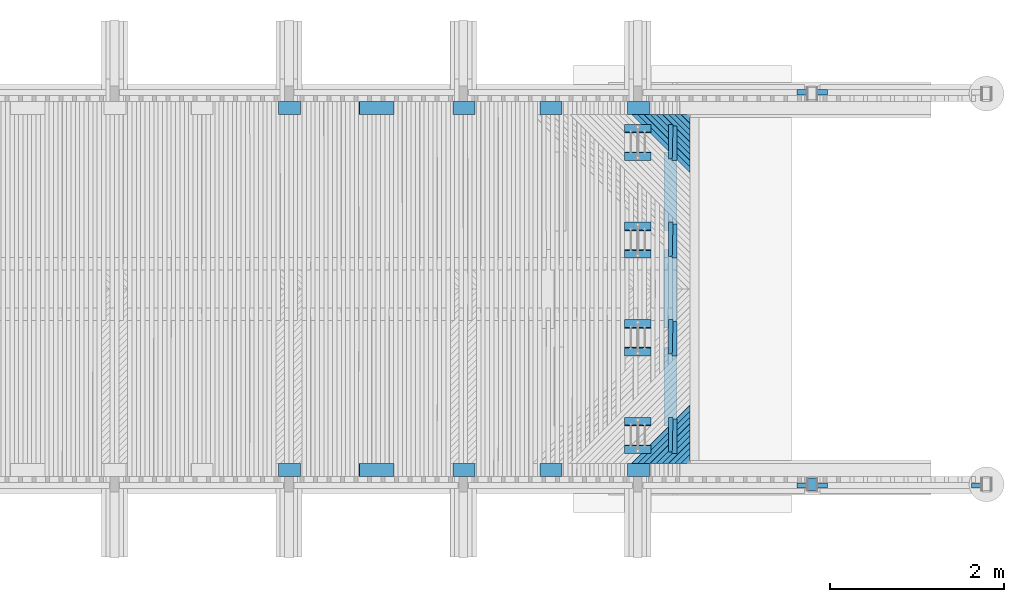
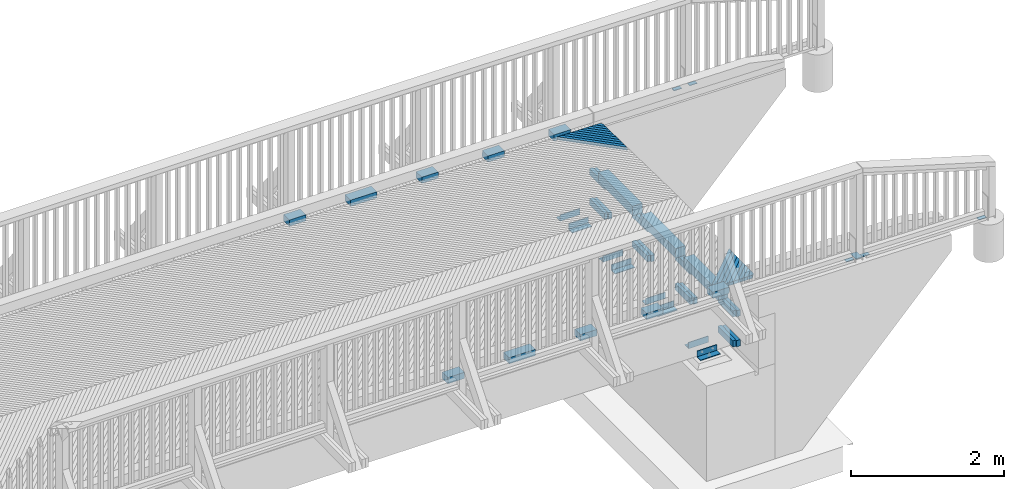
# One storey, part 50 of 53: 61 beams.
"""IFC2X3 building model written with IfcOpenShell, lengths in millimetres."""

from ifc_helpers import new_model, si_unit, frame, origin_with_axes, place, context, subcontext, project, spatial, faceted_brep, material, type_object, element, save


model = new_model("IFC2X3")

# Units and contexts
model_context = context("Model", 3, precision=1e-05, world=origin_with_axes())
body_context = subcontext(model_context, "Body", "Model", "MODEL_VIEW")
ifc_project = project(units=[si_unit("LENGTHUNIT", "METRE", prefix="MILLI"), si_unit("AREAUNIT", "SQUARE_METRE"), si_unit("VOLUMEUNIT", "CUBIC_METRE"), si_unit("MASSUNIT", "GRAM", prefix="KILO"), si_unit("TIMEUNIT", "SECOND"), si_unit("PLANEANGLEUNIT", "RADIAN"), si_unit("SOLIDANGLEUNIT", "STERADIAN"), si_unit("THERMODYNAMICTEMPERATUREUNIT", "DEGREE_CELSIUS"), si_unit("LUMINOUSINTENSITYUNIT", "LUMEN")], contexts=[model_context])

# Site, building, storey
site_placement = place(None, origin_with_axes())
site = spatial("IfcSite", under=ifc_project, at=site_placement, Name="Undefined", CompositionType="ELEMENT")
building_placement = place(site_placement, origin_with_axes())
building = spatial("IfcBuilding", under=site, at=building_placement, Name="Undefined", CompositionType="ELEMENT")
storey_placement = place(building_placement, origin_with_axes())
storey = spatial("IfcBuildingStorey", under=building, at=storey_placement, Name="Undefined", CompositionType="ELEMENT", Elevation=0.0)

# Beams
ifc_material_1 = material(Name="STEEL/AISI316")
beam_type_1 = type_object("IfcBeamType", Name="PL60*10", PredefinedType="NOTDEFINED")
for number, where, z_axis, x_axis in (
    (1, (18059.9965039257, 44620.0000002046, 3101.8699999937), (-0.000116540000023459, -0.999999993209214, 0.0), (0.999999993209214, -0.000116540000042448, 0.0)),
    (2, (17940.0034960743, 44620.0000002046, 3101.86999999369), (0.000116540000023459, -0.999999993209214, 0.0), (-0.999999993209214, -0.000116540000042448, 0.0)),
    (3, (19940.0034960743, 40109.9999997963, 3073.75999999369), (0.000116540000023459, 0.999999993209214, 0.0), (-0.999999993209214, 0.000116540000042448, 0.0)),
    (4, (18059.9965039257, 40109.9999997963, 3101.8699999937), (-0.000116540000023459, 0.999999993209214, 0.0), (0.999999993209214, 0.000116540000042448, 0.0)),
    (5, (17940.0034960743, 40109.9999997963, 3101.86999999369), (0.000116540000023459, 0.999999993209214, 0.0), (-0.999999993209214, 0.000116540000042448, 0.0)),
):
    element("IfcBeam", number, at=place(storey_placement, frame(where, z_axis=z_axis, x_axis=x_axis)), inside=storey, type_object=beam_type_1, material=ifc_material_1, Name="KAIDEPYLVÄS", ObjectType="PL60*10", context=body_context, shape_type="Brep", body=[
        faceted_brep([(0.0, 5.0, -29.9999999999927), (-3.63797880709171e-12, 5.0, 30.0), (115.000000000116, 5.0, 29.9999999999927), (115.00000000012, 5.0, -30.0), (-3.63797880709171e-12, -5.0, 30.0), (115.000000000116, -5.0, 29.9999999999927), (0.0, -5.0, -29.9999999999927), (115.00000000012, -5.0, -30.0)], [[[0, 1, 2, 3]], [[1, 4, 5, 2]], [[4, 6, 7, 5]], [[6, 0, 3, 7]], [[5, 7, 3, 2]], [[6, 4, 1, 0]]]),
    ])
beam_type_2 = type_object("IfcBeamType", Name="PL100*10", PredefinedType="NOTDEFINED")
beam_1_placement = place(storey_placement, frame((17999.9999998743, 40055.02, 3117.67000000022), z_axis=(1.0, 0.0, 0.0), x_axis=(0.0, 1.0, 0.0)))
element("IfcBeam", 6, at=beam_1_placement, inside=storey, type_object=beam_type_2, material=ifc_material_1, Name="KAIDEPYLVÄS", ObjectType="PL100*10", context=body_context, shape_type="Brep", body=[
    faceted_brep([(0.0, 5.0, -50.0), (0.0, 5.0, 50.0), (140.0, 5.0, 50.0), (140.0, 5.0, -50.0), (0.0, -5.0, 50.0), (140.0, -5.0, 50.0), (0.0, -5.0, -50.0), (140.0, -5.0, -50.0)], [[[0, 1, 2, 3]], [[1, 4, 5, 2]], [[4, 6, 7, 5]], [[6, 0, 3, 7]], [[5, 7, 3, 2]], [[6, 4, 1, 0]]]),
])
ifc_material_2 = material(Name="TIMBER/Timber_Undefined")
beam_type_3 = type_object("IfcBeamType", Name="150*100", PredefinedType="NOTDEFINED")
for number, where, z_axis, x_axis in (
    (7, (12805.9377995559, 40289.9999999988, 3199.40960826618), (0.0, -1.0, 0.0), (0.999944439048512, 0.0, -0.0105412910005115)),
    (8, (12805.9377995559, 44439.9999999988, 3199.40960826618), (0.0, -1.0, 0.0), (0.999944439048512, 0.0, -0.0105412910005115)),
):
    element("IfcBeam", number, at=place(storey_placement, frame(where, z_axis=z_axis, x_axis=x_axis)), inside=storey, type_object=beam_type_3, material=ifc_material_2, Name="TÖRMÄYSJOHDE", ObjectType="150*100", context=body_context, shape_type="Brep", body=[
        faceted_brep([(-3.63797880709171e-12, 50.0, -75.0), (-3.63797880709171e-12, 50.0, 75.0), (399.996161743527, 49.9999999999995, 75.0), (399.996161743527, 49.9999999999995, -75.0), (0.0, -49.9999999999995, 75.0), (399.996161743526, -50.0000000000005, 75.0), (0.0, -49.9999999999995, -75.0), (399.996161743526, -50.0000000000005, -75.0)], [[[0, 1, 2, 3]], [[1, 4, 5, 2]], [[4, 6, 7, 5]], [[6, 0, 3, 7]], [[5, 7, 3, 2]], [[6, 4, 1, 0]]]),
    ])
for number, where, z_axis, x_axis in (
    (9, (15881.7966501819, 44439.9999999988, 3166.35655532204), (0.0, -1.0, 0.0), (0.999929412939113, 0.0, -0.0118814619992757)),
    (10, (15881.7966501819, 40289.9999999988, 3166.35655532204), (0.0, -1.0, 0.0), (0.999929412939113, 0.0, -0.0118814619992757)),
    (11, (14881.4642555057, 44439.9999999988, 3178.62153167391), (0.0, -1.0, 0.0), (0.999947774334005, 0.0, -0.0102200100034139)),
    (12, (14881.4642555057, 40289.9999999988, 3178.62153167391), (0.0, -1.0, 0.0), (0.999947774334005, 0.0, -0.0102200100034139)),
    (13, (13881.1128627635, 44439.9999999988, 3189.22438612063), (0.0, -1.0, 0.0), (0.99996337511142, 0.0, -0.00855853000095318)),
    (14, (13881.1128627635, 40289.9999999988, 3189.22438612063), (0.0, -1.0, 0.0), (0.99996337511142, 0.0, -0.00855853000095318)),
    (15, (11880.3641300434, 44439.9999999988, 3205.44361680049), (0.0, -1.0, 0.0), (0.999986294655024, 0.0, -0.00523550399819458)),
    (16, (11880.3641300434, 40289.9999999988, 3205.44361680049), (0.0, -1.0, 0.0), (0.999986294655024, 0.0, -0.00523550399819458)),
):
    element("IfcBeam", number, at=place(storey_placement, frame(where, z_axis=z_axis, x_axis=x_axis)), inside=storey, type_object=beam_type_3, material=ifc_material_2, Name="TÖRMÄYSJOHDE", ObjectType="150*100", context=body_context, shape_type="Brep", body=[
        faceted_brep([(-3.63797880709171e-12, 50.0, -75.0), (-3.63797880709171e-12, 50.0, 75.0), (250.000589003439, 50.0000000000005, 75.0), (250.000589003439, 50.0000000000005, -75.0), (0.0, -49.9999999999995, 75.0), (250.000589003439, -50.0, 75.0), (0.0, -49.9999999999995, -75.0), (250.000589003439, -50.0, -75.0)], [[[0, 1, 2, 3]], [[1, 4, 5, 2]], [[4, 6, 7, 5]], [[6, 0, 3, 7]], [[5, 7, 3, 2]], [[6, 4, 1, 0]]]),
    ])
beam_type_4 = type_object("IfcBeamType", Name="150*150", PredefinedType="NOTDEFINED")
for number, where, z_axis, x_axis, name in (
    (17, (16375.0061224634, 43035.0011300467, 2658.99214114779), (-4.45050000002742e-05, 0.0, 0.999999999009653), (0.0, 1.0, 0.0), "BEAM"),
    (18, (16375.0061224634, 41915.0011300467, 2658.99214114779), (-4.45050000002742e-05, 0.0, 0.999999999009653), (0.0, 1.0, 0.0), "BEAM"),
    (19, (16375.0061224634, 40795.0011300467, 2658.99214114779), (-4.45050000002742e-05, 0.0, 0.999999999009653), (0.0, 1.0, 0.0), "BEAM"),
):
    element("IfcBeam", number, at=place(storey_placement, frame(where, z_axis=z_axis, x_axis=x_axis)), inside=storey, type_object=beam_type_4, material=ifc_material_2, Name=name, ObjectType="150*150", context=body_context, shape_type="Brep", body=[
        faceted_brep([(3.63797880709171e-12, 75.0000000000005, -75.0), (3.63797880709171e-12, 75.0000000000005, 75.0), (900.0, 75.0, 75.0000000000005), (900.0, 74.9999999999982, -74.9999999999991), (0.0, -75.0000000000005, 75.0), (900.0, -75.0000000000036, 75.0000000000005), (0.0, -75.0000000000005, -75.0), (900.0, -75.0, -74.9999999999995)], [[[0, 1, 2, 3]], [[1, 4, 5, 2]], [[4, 6, 7, 5]], [[6, 0, 3, 7]], [[5, 7, 3, 2]], [[6, 4, 1, 0]]]),
    ])
beam_type_5 = type_object("IfcBeamType", Name="50*50", PredefinedType="NOTDEFINED")
beam_2_placement = place(storey_placement, frame((18531.7317784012, 42364.5001003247, 3144.0077743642), z_axis=(0.706781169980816, -0.706981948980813, -0.0252369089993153), x_axis=(-0.707258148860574, -0.706948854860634, -0.00303767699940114)))
element("IfcBeam", 20, at=beam_2_placement, inside=storey, type_object=beam_type_5, material=ifc_material_2, Name="BEAM", ObjectType="50*50", context=body_context, shape_type="Brep", body=[
    faceted_brep([(2802.92643296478, -25.0, 25.0), (2852.92877373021, -25.0000000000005, -25.0000000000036), (2854.34301907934, 24.9999999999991, -25.0000000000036), (2804.34067830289, 25.0, 25.0000000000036), (2705.75872714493, 25.0, -25.0), (2755.72500686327, 25.0, 25.0000000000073), (2756.83447595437, -25.0, 25.0000000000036), (2706.86819623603, -25.0, -25.0)], [[[0, 1, 2, 3]], [[3, 2, 4, 5]], [[0, 3, 5, 6]], [[1, 0, 6, 7]], [[2, 1, 7, 4]], [[6, 5, 4, 7]]]),
])
beam_3_placement = place(storey_placement, frame((18531.7317784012, 42365.4998996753, 3144.0077743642), z_axis=(0.706781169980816, 0.706981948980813, -0.0252369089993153), x_axis=(-0.707258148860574, 0.706948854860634, -0.00303767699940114)))
element("IfcBeam", 21, at=beam_3_placement, inside=storey, type_object=beam_type_5, material=ifc_material_2, Name="BEAM", ObjectType="50*50", context=body_context, shape_type="Brep", body=[
    faceted_brep([(2804.3406783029, -25.0, 24.9999999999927), (2854.34301907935, -25.0, -25.0), (2852.92877373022, 25.0, -25.0000000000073), (2802.92643296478, 25.0, 25.0), (2756.83447595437, 25.0, 25.0), (2755.72500686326, -25.0, 25.0), (2705.75872714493, -25.0, -24.9999999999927), (2706.86819623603, 25.0, -25.0)], [[[0, 1, 2, 3]], [[0, 3, 4, 5]], [[1, 0, 5, 6]], [[2, 1, 6, 7]], [[3, 2, 7, 4]], [[6, 5, 4, 7]]]),
])
beam_4_placement = place(storey_placement, frame((18461.0182922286, 42364.5001003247, 3145.24068549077), z_axis=(0.706784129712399, -0.70698194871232, -0.0251538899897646), x_axis=(-0.70725778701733, -0.706948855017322, -0.00312075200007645)))
element("IfcBeam", 22, at=beam_4_placement, inside=storey, type_object=beam_type_5, material=ifc_material_2, Name="BEAM", ObjectType="50*50", context=body_context, shape_type="Brep", body=[
    faceted_brep([(2802.92643296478, -25.0, 25.0), (2852.92877373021, -25.0000000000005, -25.0000000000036), (2854.34301907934, 24.9999999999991, -25.0000000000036), (2804.34067830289, 25.0, 25.0000000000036), (2605.78153801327, 25.0, -24.9999999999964), (2655.74805253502, 24.9999999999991, 24.9999999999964), (2656.84922092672, -25.0000000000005, 24.9999999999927), (2606.88270640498, -25.0000000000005, -25.0)], [[[0, 1, 2, 3]], [[3, 2, 4, 5]], [[0, 3, 5, 6]], [[1, 0, 6, 7]], [[2, 1, 7, 4]], [[6, 5, 4, 7]]]),
])
beam_5_placement = place(storey_placement, frame((18461.0182922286, 42365.4998996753, 3145.24068549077), z_axis=(0.706784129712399, 0.70698194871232, -0.0251538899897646), x_axis=(-0.70725778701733, 0.706948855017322, -0.00312075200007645)))
element("IfcBeam", 23, at=beam_5_placement, inside=storey, type_object=beam_type_5, material=ifc_material_2, Name="BEAM", ObjectType="50*50", context=body_context, shape_type="Brep", body=[
    faceted_brep([(2804.3406783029, -25.0, 24.9999999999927), (2854.34301907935, -25.0, -25.0), (2852.92877373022, 25.0, -25.0000000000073), (2802.92643296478, 25.0, 25.0), (2656.84922092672, 25.0000000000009, 25.0), (2655.74805253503, -24.9999999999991, 25.0000000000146), (2605.78153801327, -25.0, -24.9999999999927), (2606.88270640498, 25.0000000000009, -25.0)], [[[0, 1, 2, 3]], [[0, 3, 4, 5]], [[1, 0, 5, 6]], [[2, 1, 6, 7]], [[3, 2, 7, 4]], [[6, 5, 4, 7]]]),
])
beam_6_placement = place(storey_placement, frame((18390.3046617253, 42364.5001003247, 3146.4652905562), z_axis=(0.70678707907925, -0.706981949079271, -0.0250708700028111), x_axis=(-0.707257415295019, -0.706948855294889, -0.00320382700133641)))
element("IfcBeam", 24, at=beam_6_placement, inside=storey, type_object=beam_type_5, material=ifc_material_2, Name="BEAM", ObjectType="50*50", context=body_context, shape_type="Brep", body=[
    faceted_brep([(2802.92643296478, -25.0, 25.0), (2852.92877373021, -25.0000000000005, -25.0000000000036), (2854.34301907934, 24.9999999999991, -25.0000000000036), (2804.34067830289, 25.0, 25.0000000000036), (2505.80407790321, 25.0000000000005, -24.9999999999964), (2555.77082719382, 25.0000000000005, 25.0000000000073), (2556.86369484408, -25.0000000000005, 25.0000000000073), (2506.89694555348, -25.0, -24.9999999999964)], [[[0, 1, 2, 3]], [[3, 2, 4, 5]], [[0, 3, 5, 6]], [[1, 0, 6, 7]], [[2, 1, 7, 4]], [[6, 5, 4, 7]]]),
])
beam_7_placement = place(storey_placement, frame((18390.3046617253, 42365.4998996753, 3146.4652905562), z_axis=(0.70678707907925, 0.706981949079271, -0.0250708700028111), x_axis=(-0.707257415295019, 0.706948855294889, -0.00320382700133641)))
element("IfcBeam", 25, at=beam_7_placement, inside=storey, type_object=beam_type_5, material=ifc_material_2, Name="BEAM", ObjectType="50*50", context=body_context, shape_type="Brep", body=[
    faceted_brep([(2804.3406783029, -25.0, 24.9999999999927), (2854.34301907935, -25.0, -25.0), (2852.92877373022, 25.0, -25.0000000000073), (2802.92643296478, 25.0, 25.0), (2556.86369484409, 25.0, 25.0), (2555.77082719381, -25.0000000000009, 25.0), (2505.80407790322, -25.0000000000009, -25.0), (2506.89694555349, 24.9999999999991, -25.0)], [[[0, 1, 2, 3]], [[0, 3, 4, 5]], [[1, 0, 5, 6]], [[2, 1, 6, 7]], [[3, 2, 7, 4]], [[6, 5, 4, 7]]]),
])
beam_8_placement = place(storey_placement, frame((18319.5908878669, 42364.5001003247, 3147.68158954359), z_axis=(0.706790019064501, -0.706981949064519, -0.0249878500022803), x_axis=(-0.707257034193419, -0.706948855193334, -0.00328690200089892)))
element("IfcBeam", 26, at=beam_8_placement, inside=storey, type_object=beam_type_5, material=ifc_material_2, Name="BEAM", ObjectType="50*50", context=body_context, shape_type="Brep", body=[
    faceted_brep([(2802.92643296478, -25.0, 25.0), (2852.92877373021, -25.0000000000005, -25.0000000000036), (2854.34301907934, 24.9999999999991, -25.0000000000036), (2804.34067830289, 25.0, 25.0000000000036), (2405.82634224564, 25.0, -25.0000000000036), (2455.79332630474, 25.0000000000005, 25.0), (2456.87789321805, -24.9999999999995, 24.9999999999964), (2406.91090915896, -24.9999999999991, -25.0000000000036)], [[[0, 1, 2, 3]], [[3, 2, 4, 5]], [[0, 3, 5, 6]], [[1, 0, 6, 7]], [[2, 1, 7, 4]], [[6, 5, 4, 7]]]),
])
beam_9_placement = place(storey_placement, frame((18319.5908878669, 42365.4998996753, 3147.68158954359), z_axis=(0.706790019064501, 0.706981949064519, -0.0249878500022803), x_axis=(-0.707257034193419, 0.706948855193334, -0.00328690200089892)))
element("IfcBeam", 27, at=beam_9_placement, inside=storey, type_object=beam_type_5, material=ifc_material_2, Name="BEAM", ObjectType="50*50", context=body_context, shape_type="Brep", body=[
    faceted_brep([(2804.3406783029, -25.0, 24.9999999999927), (2854.34301907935, -25.0, -25.0), (2852.92877373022, 25.0, -25.0000000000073), (2802.92643296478, 25.0, 25.0), (2456.87789321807, 25.0, 25.0), (2455.79332630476, -25.0, 25.0), (2405.82634224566, -25.0, -25.0000000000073), (2406.91090915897, 24.9999999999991, -25.0)], [[[0, 1, 2, 3]], [[0, 3, 4, 5]], [[1, 0, 5, 6]], [[2, 1, 6, 7]], [[3, 2, 7, 4]], [[6, 5, 4, 7]]]),
])
beam_10_placement = place(storey_placement, frame((18248.8769716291, 42364.5001003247, 3148.88958243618), z_axis=(0.706792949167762, -0.706981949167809, -0.0249048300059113), x_axis=(-0.707256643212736, -0.706948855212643, -0.00336997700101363)))
element("IfcBeam", 28, at=beam_10_placement, inside=storey, type_object=beam_type_5, material=ifc_material_2, Name="BEAM", ObjectType="50*50", context=body_context, shape_type="Brep", body=[
    faceted_brep([(2802.92643296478, -25.0, 25.0), (2852.92877373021, -25.0000000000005, -25.0000000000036), (2854.34301907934, 24.9999999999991, -25.0000000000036), (2804.34067830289, 25.0, 25.0000000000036), (2305.84833008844, 25.0000000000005, -24.9999999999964), (2355.81554891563, 25.0, 25.0000000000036), (2356.89181509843, -25.0, 25.0000000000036), (2306.92459627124, -24.9999999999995, -24.9999999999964)], [[[0, 1, 2, 3]], [[3, 2, 4, 5]], [[0, 3, 5, 6]], [[1, 0, 6, 7]], [[2, 1, 7, 4]], [[6, 5, 4, 7]]]),
])
beam_11_placement = place(storey_placement, frame((18248.8769716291, 42365.4998996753, 3148.88958243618), z_axis=(0.706792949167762, 0.706981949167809, -0.0249048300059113), x_axis=(-0.707256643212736, 0.706948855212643, -0.00336997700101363)))
element("IfcBeam", 29, at=beam_11_placement, inside=storey, type_object=beam_type_5, material=ifc_material_2, Name="BEAM", ObjectType="50*50", context=body_context, shape_type="Brep", body=[
    faceted_brep([(2804.3406783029, -25.0, 24.9999999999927), (2854.34301907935, -25.0, -25.0), (2852.92877373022, 25.0, -25.0000000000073), (2802.92643296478, 25.0, 25.0), (2356.89181509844, 25.0000000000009, 25.0), (2355.81554891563, -24.9999999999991, 25.0), (2305.84833008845, -24.9999999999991, -25.0), (2306.92459627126, 25.0000000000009, -25.0)], [[[0, 1, 2, 3]], [[0, 3, 4, 5]], [[1, 0, 5, 6]], [[2, 1, 6, 7]], [[3, 2, 7, 4]], [[6, 5, 4, 7]]]),
])
beam_12_placement = place(storey_placement, frame((18178.1629139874, 42364.5001003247, 3150.08926921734), z_axis=(0.706795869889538, -0.706981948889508, -0.0248218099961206), x_axis=(-0.707256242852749, -0.706948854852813, -0.00345305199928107)))
element("IfcBeam", 30, at=beam_12_placement, inside=storey, type_object=beam_type_5, material=ifc_material_2, Name="BEAM", ObjectType="50*50", context=body_context, shape_type="Brep", body=[
    faceted_brep([(2802.92643296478, -25.0, 25.0), (2852.92877373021, -25.0000000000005, -25.0000000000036), (2854.34301907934, 24.9999999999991, -25.0000000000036), (2804.34067830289, 25.0, 25.0000000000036), (2205.87003704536, 25.0, -24.9999999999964), (2255.83749064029, 25.0, 24.9999999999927), (2256.90545609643, -25.0000000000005, 24.9999999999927), (2206.93800250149, -25.0, -25.0)], [[[0, 1, 2, 3]], [[3, 2, 4, 5]], [[0, 3, 5, 6]], [[1, 0, 6, 7]], [[2, 1, 7, 4]], [[6, 5, 4, 7]]]),
])
beam_13_placement = place(storey_placement, frame((18178.1629139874, 42365.4998996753, 3150.08926921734), z_axis=(0.706795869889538, 0.706981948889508, -0.0248218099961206), x_axis=(-0.707256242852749, 0.706948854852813, -0.00345305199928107)))
element("IfcBeam", 31, at=beam_13_placement, inside=storey, type_object=beam_type_5, material=ifc_material_2, Name="BEAM", ObjectType="50*50", context=body_context, shape_type="Brep", body=[
    faceted_brep([(2804.3406783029, -25.0, 24.9999999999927), (2854.34301907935, -25.0, -25.0), (2852.92877373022, 25.0, -25.0000000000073), (2802.92643296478, 25.0, 25.0), (2256.90545609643, 25.0, 25.0), (2255.83749064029, -25.0, 24.9999999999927), (2205.87003704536, -25.0000000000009, -25.0), (2206.9380025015, 24.9999999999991, -24.9999999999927)], [[[0, 1, 2, 3]], [[0, 3, 4, 5]], [[1, 0, 5, 6]], [[2, 1, 6, 7]], [[3, 2, 7, 4]], [[6, 5, 4, 7]]]),
])
beam_14_placement = place(storey_placement, frame((18107.4487159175, 42364.5001003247, 3151.28064987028), z_axis=(0.706798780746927, -0.706981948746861, -0.0247387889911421), x_axis=(-0.707255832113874, -0.706948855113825, -0.00353612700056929)))
element("IfcBeam", 32, at=beam_14_placement, inside=storey, type_object=beam_type_5, material=ifc_material_2, Name="BEAM", ObjectType="50*50", context=body_context, shape_type="Brep", body=[
    faceted_brep([(2802.92643296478, -25.0, 25.0), (2852.92877373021, -25.0000000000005, -25.0000000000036), (2854.34301907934, 24.9999999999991, -25.0000000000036), (2804.34067830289, 25.0, 25.0000000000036), (2105.89146353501, 24.9999999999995, -25.0), (2155.85915193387, 24.9999999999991, 25.0), (2156.91881662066, -25.0, 24.9999999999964), (2106.95112822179, -25.0, -25.0)], [[[0, 1, 2, 3]], [[3, 2, 4, 5]], [[0, 3, 5, 6]], [[1, 0, 6, 7]], [[2, 1, 7, 4]], [[6, 5, 4, 7]]]),
])
beam_15_placement = place(storey_placement, frame((18107.4487159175, 42365.4998996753, 3151.28064987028), z_axis=(0.706798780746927, 0.706981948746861, -0.0247387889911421), x_axis=(-0.707255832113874, 0.706948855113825, -0.00353612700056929)))
element("IfcBeam", 33, at=beam_15_placement, inside=storey, type_object=beam_type_5, material=ifc_material_2, Name="BEAM", ObjectType="50*50", context=body_context, shape_type="Brep", body=[
    faceted_brep([(2804.3406783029, -25.0, 24.9999999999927), (2854.34301907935, -25.0, -25.0), (2852.92877373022, 25.0, -25.0000000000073), (2802.92643296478, 25.0, 25.0), (2156.91881662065, 25.0, 24.9999999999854), (2155.85915193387, -24.9999999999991, 24.9999999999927), (2105.891463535, -24.9999999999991, -25.0000000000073), (2106.95112822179, 25.0, -25.0000000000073)], [[[0, 1, 2, 3]], [[0, 3, 4, 5]], [[1, 0, 5, 6]], [[2, 1, 6, 7]], [[3, 2, 7, 4]], [[6, 5, 4, 7]]]),
])
beam_16_placement = place(storey_placement, frame((18036.7343783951, 42364.5001003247, 3152.46372437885), z_axis=(0.706801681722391, -0.706981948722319, -0.024655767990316), x_axis=(-0.707255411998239, -0.70694885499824, -0.00361920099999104)))
element("IfcBeam", 34, at=beam_16_placement, inside=storey, type_object=beam_type_5, material=ifc_material_2, Name="BEAM", ObjectType="50*50", context=body_context, shape_type="Brep", body=[
    faceted_brep([(2802.92643296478, -25.0, 25.0), (2852.92877373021, -25.0000000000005, -25.0000000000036), (2854.34301907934, 24.9999999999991, -25.0000000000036), (2804.34067830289, 25.0, 25.0000000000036), (2005.91260364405, 24.9999999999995, -25.0), (2055.88052681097, 24.9999999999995, 25.0000000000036), (2056.9318907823, -25.0000000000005, 25.0000000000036), (2006.96396761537, -25.0000000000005, -25.0)], [[[0, 1, 2, 3]], [[3, 2, 4, 5]], [[0, 3, 5, 6]], [[1, 0, 6, 7]], [[2, 1, 7, 4]], [[6, 5, 4, 7]]]),
])
beam_17_placement = place(storey_placement, frame((18036.7343783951, 42365.4998996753, 3152.46372437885), z_axis=(0.706801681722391, 0.706981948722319, -0.024655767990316), x_axis=(-0.707255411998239, 0.70694885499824, -0.00361920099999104)))
element("IfcBeam", 35, at=beam_17_placement, inside=storey, type_object=beam_type_5, material=ifc_material_2, Name="BEAM", ObjectType="50*50", context=body_context, shape_type="Brep", body=[
    faceted_brep([(2804.3406783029, -25.0, 24.9999999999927), (2854.34301907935, -25.0, -25.0), (2852.92877373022, 25.0, -25.0000000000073), (2802.92643296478, 25.0, 25.0), (2056.93189078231, 24.9999999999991, 25.0), (2055.88052681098, -25.0, 25.0), (2005.91260364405, -25.0000000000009, -25.0), (2006.96396761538, 24.9999999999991, -25.0)], [[[0, 1, 2, 3]], [[0, 3, 4, 5]], [[1, 0, 5, 6]], [[2, 1, 6, 7]], [[3, 2, 7, 4]], [[6, 5, 4, 7]]]),
])
beam_18_placement = place(storey_placement, frame((17966.0199023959, 42364.5001003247, 3153.6384927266), z_axis=(0.70680457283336, -0.706981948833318, -0.0245727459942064), x_axis=(-0.707254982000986, -0.706948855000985, -0.00370227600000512)))
element("IfcBeam", 36, at=beam_18_placement, inside=storey, type_object=beam_type_5, material=ifc_material_2, Name="BEAM", ObjectType="50*50", context=body_context, shape_type="Brep", body=[
    faceted_brep([(2802.92643296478, -25.0, 25.0), (2852.92877373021, -25.0000000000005, -25.0000000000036), (2854.34301907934, 24.9999999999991, -25.0000000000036), (2804.34067830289, 25.0, 25.0000000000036), (1905.9334562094, 24.9999999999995, -25.0000000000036), (1955.90161414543, 24.9999999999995, 25.0000000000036), (1956.94467730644, -25.0000000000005, 25.0000000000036), (1906.97651937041, -25.0000000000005, -25.0000000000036)], [[[0, 1, 2, 3]], [[3, 2, 4, 5]], [[0, 3, 5, 6]], [[1, 0, 6, 7]], [[2, 1, 7, 4]], [[6, 5, 4, 7]]]),
])
beam_19_placement = place(storey_placement, frame((17966.0199023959, 42365.4998996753, 3153.6384927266), z_axis=(0.70680457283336, 0.706981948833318, -0.0245727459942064), x_axis=(-0.707254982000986, 0.706948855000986, -0.00370227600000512)))
element("IfcBeam", 37, at=beam_19_placement, inside=storey, type_object=beam_type_5, material=ifc_material_2, Name="BEAM", ObjectType="50*50", context=body_context, shape_type="Brep", body=[
    faceted_brep([(2804.3406783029, -25.0, 24.9999999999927), (2854.34301907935, -25.0, -25.0), (2852.92877373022, 25.0, -25.0000000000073), (2802.92643296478, 25.0, 25.0), (1956.94467730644, 25.0, 25.0000000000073), (1955.90161414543, -25.0, 25.0000000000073), (1905.9334562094, -25.0, -25.0), (1906.97651937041, 25.0, -25.0)], [[[0, 1, 2, 3]], [[0, 3, 4, 5]], [[1, 0, 5, 6]], [[2, 1, 6, 7]], [[3, 2, 7, 4]], [[6, 5, 4, 7]]]),
])
ifc_material_3 = material(Name="STEEL/S235JR")
beam_type_6 = type_object("IfcBeamType", Name="L100*10", PredefinedType="NOTDEFINED")
for number, where, z_axis, x_axis, name in (
    (38, (16150.0, 42767.5000000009, 2047.33), (0.0, -1.0, 0.0), (-1.0, 0.0, 0.0), "BEAM"),
    (39, (16150.0, 43082.5000000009, 2047.33), (0.0, 0.0, 1.0), (-1.0, 0.0, 0.0), "BEAM"),
    (40, (16150.0, 43887.5000000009, 2025.33), (0.0, -1.0, 0.0), (-1.0, 0.0, 0.0), "BEAM"),
    (41, (16150.0, 44202.5000000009, 2025.33), (0.0, 0.0, 1.0), (-1.0, 0.0, 0.0), "BEAM"),
    (42, (15850.0, 41962.5, 2047.33), (0.0, 1.0, 0.0), (1.0, 0.0, 0.0), "BEAM"),
    (43, (15850.0, 41647.5, 2047.33), (0.0, 0.0, 1.0), (1.0, 0.0, 0.0), "BEAM"),
    (44, (15850.0, 40842.5, 2025.33), (0.0, 1.0, 0.0), (1.0, 0.0, 0.0), "BEAM"),
    (45, (15850.0, 40527.5, 2025.33), (0.0, 0.0, 1.0), (1.0, 0.0, 0.0), "BEAM"),
):
    element("IfcBeam", number, at=place(storey_placement, frame(where, z_axis=z_axis, x_axis=x_axis)), inside=storey, type_object=beam_type_6, material=ifc_material_3, Name=name, ObjectType="L100*10", context=body_context, shape_type="Brep", body=[
        faceted_brep([(0.0, 50.0, -50.0), (0.0, 50.0, 50.0), (300.0, 50.0, 50.0), (300.0, 50.0, -50.0), (0.0, 40.0, 50.0), (300.0, 40.0, 50.0), (0.0, 40.0, -40.0), (300.0, 40.0, -40.0), (0.0, -50.0, -40.0), (300.0, -50.0, -40.0), (0.0, -50.0, -50.0), (300.0, -50.0, -50.0)], [[[0, 1, 2, 3]], [[1, 4, 5, 2]], [[4, 6, 7, 5]], [[6, 8, 9, 7]], [[8, 10, 11, 9]], [[10, 0, 3, 11]], [[5, 7, 9, 11, 3, 2]], [[10, 8, 6, 4, 1, 0]]]),
    ])
beam_type_7 = type_object("IfcBeamType", Name="100*60", PredefinedType="NOTDEFINED")
beam_20_placement = place(storey_placement, frame((16380.01, 43857.5, 2533.62000000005), z_axis=(0.0, 0.0, 1.0), x_axis=(0.0, 1.0, 0.0)))
element("IfcBeam", 46, at=beam_20_placement, inside=storey, type_object=beam_type_7, material=ifc_material_2, Name="BEAM", ObjectType="100*60", context=body_context, shape_type="Brep", body=[
    faceted_brep([(0.0, 30.0, -50.0), (0.0, 30.0, 50.0), (395.0, 30.0, 50.0), (395.0, 30.0, -50.0), (395.0, -25.2500000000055, 50.0), (395.0, -25.2500000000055, -50.0), (0.0, -15.2499998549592, -50.0), (0.0, -15.2499998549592, 50.0)], [[[0, 1, 2, 3]], [[3, 2, 4, 5]], [[0, 3, 5, 6]], [[1, 0, 6, 7]], [[2, 1, 7, 4]], [[6, 5, 4, 7]]]),
])
beam_21_placement = place(storey_placement, frame((16420.01, 43837.5, 2533.62000000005), z_axis=(0.0, 0.0, 1.0), x_axis=(0.0, 1.0, 0.0)))
element("IfcBeam", 47, at=beam_21_placement, inside=storey, type_object=beam_type_7, material=ifc_material_2, Name="BEAM", ObjectType="100*60", context=body_context, shape_type="Brep", body=[
    faceted_brep([(0.0, -30.0, 50.0), (0.0, -30.0, -50.0), (395.0, -30.0, -50.0), (395.0, -30.0, 50.0), (395.0, 15.2563291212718, 50.0), (0.0, 25.2563292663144, 50.0), (0.0, 25.2563292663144, -50.0), (395.0, 15.2563291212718, -50.0)], [[[0, 1, 2, 3]], [[0, 3, 4, 5]], [[1, 0, 5, 6]], [[2, 1, 6, 7]], [[3, 2, 7, 4]], [[6, 5, 4, 7]]]),
])
beam_22_placement = place(storey_placement, frame((16380.0, 43857.5, 2055.33), z_axis=(0.0, 0.0, 1.0), x_axis=(0.0, 1.0, 0.0)))
element("IfcBeam", 48, at=beam_22_placement, inside=storey, type_object=beam_type_7, material=ifc_material_2, Name="BEAM", ObjectType="100*60", context=body_context, shape_type="Brep", body=[
    faceted_brep([(0.0, 30.0, -50.0), (0.0, 30.0, 50.0), (395.0, 30.0, 50.0), (395.0, 30.0, -50.0), (395.0, -25.2500000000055, 50.0), (395.0, -25.2500000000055, -50.0), (0.0, -15.2499998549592, -50.0), (0.0, -15.2499998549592, 50.0)], [[[0, 1, 2, 3]], [[3, 2, 4, 5]], [[0, 3, 5, 6]], [[1, 0, 6, 7]], [[2, 1, 7, 4]], [[6, 5, 4, 7]]]),
])
beam_23_placement = place(storey_placement, frame((16420.0, 43837.5, 2055.33), z_axis=(0.0, 0.0, 1.0), x_axis=(0.0, 1.0, 0.0)))
element("IfcBeam", 49, at=beam_23_placement, inside=storey, type_object=beam_type_7, material=ifc_material_2, Name="BEAM", ObjectType="100*60", context=body_context, shape_type="Brep", body=[
    faceted_brep([(0.0, -30.0, 50.0), (0.0, -30.0, -50.0), (395.0, -30.0, -50.0), (395.0, -30.0, 50.0), (395.0, 15.2563291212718, 50.0), (0.0, 25.2563292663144, 50.0), (0.0, 25.2563292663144, -50.0), (395.0, 15.2563291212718, -50.0)], [[[0, 1, 2, 3]], [[0, 3, 4, 5]], [[1, 0, 5, 6]], [[2, 1, 6, 7]], [[3, 2, 7, 4]], [[6, 5, 4, 7]]]),
])
beam_24_placement = place(storey_placement, frame((16380.01, 42737.5, 2533.62000000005), z_axis=(0.0, 0.0, 1.0), x_axis=(0.0, 1.0, 0.0)))
element("IfcBeam", 50, at=beam_24_placement, inside=storey, type_object=beam_type_7, material=ifc_material_2, Name="BEAM", ObjectType="100*60", context=body_context, shape_type="Brep", body=[
    faceted_brep([(0.0, 30.0, -50.0), (0.0, 30.0, 50.0), (395.0, 30.0, 50.0), (395.0, 30.0, -50.0), (395.0, -25.2500000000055, 50.0), (395.0, -25.2500000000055, -50.0), (0.0, -15.2499998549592, -50.0), (0.0, -15.2499998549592, 50.0)], [[[0, 1, 2, 3]], [[3, 2, 4, 5]], [[0, 3, 5, 6]], [[1, 0, 6, 7]], [[2, 1, 7, 4]], [[6, 5, 4, 7]]]),
])
beam_25_placement = place(storey_placement, frame((16420.01, 42717.5, 2533.62000000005), z_axis=(0.0, 0.0, 1.0), x_axis=(0.0, 1.0, 0.0)))
element("IfcBeam", 51, at=beam_25_placement, inside=storey, type_object=beam_type_7, material=ifc_material_2, Name="BEAM", ObjectType="100*60", context=body_context, shape_type="Brep", body=[
    faceted_brep([(0.0, -30.0, 50.0), (0.0, -30.0, -50.0), (395.0, -30.0, -50.0), (395.0, -30.0, 50.0), (395.0, 15.2563291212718, 50.0), (0.0, 25.2563292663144, 50.0), (0.0, 25.2563292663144, -50.0), (395.0, 15.2563291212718, -50.0)], [[[0, 1, 2, 3]], [[0, 3, 4, 5]], [[1, 0, 5, 6]], [[2, 1, 6, 7]], [[3, 2, 7, 4]], [[6, 5, 4, 7]]]),
])
beam_26_placement = place(storey_placement, frame((16380.0, 42737.5, 2055.33), z_axis=(0.0, 0.0, 1.0), x_axis=(0.0, 1.0, 0.0)))
element("IfcBeam", 52, at=beam_26_placement, inside=storey, type_object=beam_type_7, material=ifc_material_2, Name="BEAM", ObjectType="100*60", context=body_context, shape_type="Brep", body=[
    faceted_brep([(0.0, 30.0, -50.0), (0.0, 30.0, 50.0), (395.0, 30.0, 50.0), (395.0, 30.0, -50.0), (395.0, -25.2500000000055, 50.0), (395.0, -25.2500000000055, -50.0), (0.0, -15.2499998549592, -50.0), (0.0, -15.2499998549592, 50.0)], [[[0, 1, 2, 3]], [[3, 2, 4, 5]], [[0, 3, 5, 6]], [[1, 0, 6, 7]], [[2, 1, 7, 4]], [[6, 5, 4, 7]]]),
])
beam_27_placement = place(storey_placement, frame((16420.0, 42717.5, 2055.33), z_axis=(0.0, 0.0, 1.0), x_axis=(0.0, 1.0, 0.0)))
element("IfcBeam", 53, at=beam_27_placement, inside=storey, type_object=beam_type_7, material=ifc_material_2, Name="BEAM", ObjectType="100*60", context=body_context, shape_type="Brep", body=[
    faceted_brep([(0.0, -30.0, 50.0), (0.0, -30.0, -50.0), (395.0, -30.0, -50.0), (395.0, -30.0, 50.0), (395.0, 15.2563291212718, 50.0), (0.0, 25.2563292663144, 50.0), (0.0, 25.2563292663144, -50.0), (395.0, 15.2563291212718, -50.0)], [[[0, 1, 2, 3]], [[0, 3, 4, 5]], [[1, 0, 5, 6]], [[2, 1, 6, 7]], [[3, 2, 7, 4]], [[6, 5, 4, 7]]]),
])
beam_28_placement = place(storey_placement, frame((16380.01, 41617.5, 2533.62000000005), z_axis=(0.0, 0.0, 1.0), x_axis=(0.0, 1.0, 0.0)))
element("IfcBeam", 54, at=beam_28_placement, inside=storey, type_object=beam_type_7, material=ifc_material_2, Name="BEAM", ObjectType="100*60", context=body_context, shape_type="Brep", body=[
    faceted_brep([(0.0, 30.0, -50.0), (0.0, 30.0, 50.0), (395.0, 30.0, 50.0), (395.0, 30.0, -50.0), (395.0, -25.2500000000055, 50.0), (395.0, -25.2500000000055, -50.0), (0.0, -15.2499998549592, -50.0), (0.0, -15.2499998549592, 50.0)], [[[0, 1, 2, 3]], [[3, 2, 4, 5]], [[0, 3, 5, 6]], [[1, 0, 6, 7]], [[2, 1, 7, 4]], [[6, 5, 4, 7]]]),
])
beam_29_placement = place(storey_placement, frame((16420.01, 41597.5, 2533.62000000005), z_axis=(0.0, 0.0, 1.0), x_axis=(0.0, 1.0, 0.0)))
element("IfcBeam", 55, at=beam_29_placement, inside=storey, type_object=beam_type_7, material=ifc_material_2, Name="BEAM", ObjectType="100*60", context=body_context, shape_type="Brep", body=[
    faceted_brep([(0.0, -30.0, 50.0), (0.0, -30.0, -50.0), (395.0, -30.0, -50.0), (395.0, -30.0, 50.0), (395.0, 15.2563291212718, 50.0), (0.0, 25.2563292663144, 50.0), (0.0, 25.2563292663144, -50.0), (395.0, 15.2563291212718, -50.0)], [[[0, 1, 2, 3]], [[0, 3, 4, 5]], [[1, 0, 5, 6]], [[2, 1, 6, 7]], [[3, 2, 7, 4]], [[6, 5, 4, 7]]]),
])
beam_30_placement = place(storey_placement, frame((16380.0, 41617.5, 2055.33), z_axis=(0.0, 0.0, 1.0), x_axis=(0.0, 1.0, 0.0)))
element("IfcBeam", 56, at=beam_30_placement, inside=storey, type_object=beam_type_7, material=ifc_material_2, Name="BEAM", ObjectType="100*60", context=body_context, shape_type="Brep", body=[
    faceted_brep([(0.0, 30.0, -50.0), (0.0, 30.0, 50.0), (395.0, 30.0, 50.0), (395.0, 30.0, -50.0), (395.0, -25.2500000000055, 50.0), (395.0, -25.2500000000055, -50.0), (0.0, -15.2499998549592, -50.0), (0.0, -15.2499998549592, 50.0)], [[[0, 1, 2, 3]], [[3, 2, 4, 5]], [[0, 3, 5, 6]], [[1, 0, 6, 7]], [[2, 1, 7, 4]], [[6, 5, 4, 7]]]),
])
beam_31_placement = place(storey_placement, frame((16420.0, 41597.5, 2055.33), z_axis=(0.0, 0.0, 1.0), x_axis=(0.0, 1.0, 0.0)))
element("IfcBeam", 57, at=beam_31_placement, inside=storey, type_object=beam_type_7, material=ifc_material_2, Name="BEAM", ObjectType="100*60", context=body_context, shape_type="Brep", body=[
    faceted_brep([(0.0, -30.0, 50.0), (0.0, -30.0, -50.0), (395.0, -30.0, -50.0), (395.0, -30.0, 50.0), (395.0, 15.2563291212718, 50.0), (0.0, 25.2563292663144, 50.0), (0.0, 25.2563292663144, -50.0), (395.0, 15.2563291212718, -50.0)], [[[0, 1, 2, 3]], [[0, 3, 4, 5]], [[1, 0, 5, 6]], [[2, 1, 6, 7]], [[3, 2, 7, 4]], [[6, 5, 4, 7]]]),
])
beam_32_placement = place(storey_placement, frame((16380.01, 40497.5, 2533.62000000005), z_axis=(0.0, 0.0, 1.0), x_axis=(0.0, 1.0, 0.0)))
element("IfcBeam", 58, at=beam_32_placement, inside=storey, type_object=beam_type_7, material=ifc_material_2, Name="BEAM", ObjectType="100*60", context=body_context, shape_type="Brep", body=[
    faceted_brep([(0.0, 30.0, -50.0), (0.0, 30.0, 50.0), (395.0, 30.0, 50.0), (395.0, 30.0, -50.0), (395.0, -25.2500000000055, 50.0), (395.0, -25.2500000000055, -50.0), (0.0, -15.2499998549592, -50.0), (0.0, -15.2499998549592, 50.0)], [[[0, 1, 2, 3]], [[3, 2, 4, 5]], [[0, 3, 5, 6]], [[1, 0, 6, 7]], [[2, 1, 7, 4]], [[6, 5, 4, 7]]]),
])
beam_33_placement = place(storey_placement, frame((16420.01, 40477.5, 2533.62000000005), z_axis=(0.0, 0.0, 1.0), x_axis=(0.0, 1.0, 0.0)))
element("IfcBeam", 59, at=beam_33_placement, inside=storey, type_object=beam_type_7, material=ifc_material_2, Name="BEAM", ObjectType="100*60", context=body_context, shape_type="Brep", body=[
    faceted_brep([(0.0, -30.0, 50.0), (0.0, -30.0, -50.0), (395.0, -30.0, -50.0), (395.0, -30.0, 50.0), (395.0, 15.2563291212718, 50.0), (0.0, 25.2563292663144, 50.0), (0.0, 25.2563292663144, -50.0), (395.0, 15.2563291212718, -50.0)], [[[0, 1, 2, 3]], [[0, 3, 4, 5]], [[1, 0, 5, 6]], [[2, 1, 6, 7]], [[3, 2, 7, 4]], [[6, 5, 4, 7]]]),
])
beam_34_placement = place(storey_placement, frame((16380.0, 40497.5, 2055.33), z_axis=(0.0, 0.0, 1.0), x_axis=(0.0, 1.0, 0.0)))
element("IfcBeam", 60, at=beam_34_placement, inside=storey, type_object=beam_type_7, material=ifc_material_2, Name="BEAM", ObjectType="100*60", context=body_context, shape_type="Brep", body=[
    faceted_brep([(0.0, 30.0, -50.0), (0.0, 30.0, 50.0), (395.0, 30.0, 50.0), (395.0, 30.0, -50.0), (395.0, -25.2500000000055, 50.0), (395.0, -25.2500000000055, -50.0), (0.0, -15.2499998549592, -50.0), (0.0, -15.2499998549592, 50.0)], [[[0, 1, 2, 3]], [[3, 2, 4, 5]], [[0, 3, 5, 6]], [[1, 0, 6, 7]], [[2, 1, 7, 4]], [[6, 5, 4, 7]]]),
])
beam_35_placement = place(storey_placement, frame((16420.0, 40477.5, 2055.33), z_axis=(0.0, 0.0, 1.0), x_axis=(0.0, 1.0, 0.0)))
element("IfcBeam", 61, at=beam_35_placement, inside=storey, type_object=beam_type_7, material=ifc_material_2, Name="BEAM", ObjectType="100*60", context=body_context, shape_type="Brep", body=[
    faceted_brep([(0.0, -30.0, 50.0), (0.0, -30.0, -50.0), (395.0, -30.0, -50.0), (395.0, -30.0, 50.0), (395.0, 15.2563291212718, 50.0), (0.0, 25.2563292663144, 50.0), (0.0, 25.2563292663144, -50.0), (395.0, 15.2563291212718, -50.0)], [[[0, 1, 2, 3]], [[0, 3, 4, 5]], [[1, 0, 5, 6]], [[2, 1, 6, 7]], [[3, 2, 7, 4]], [[6, 5, 4, 7]]]),
])

save(model, "model.ifc")
